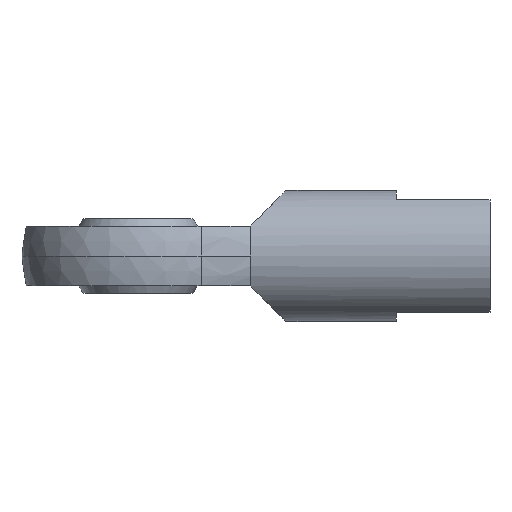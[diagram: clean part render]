
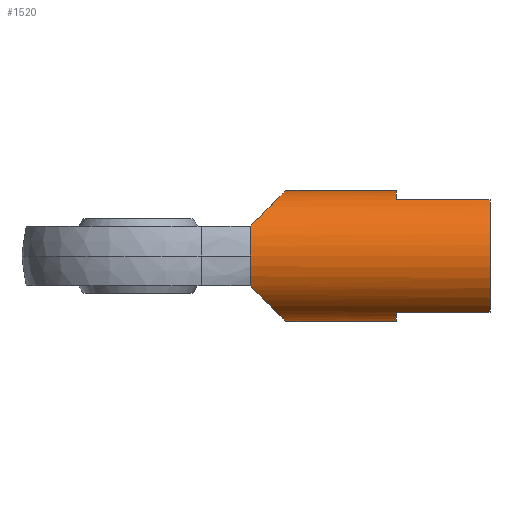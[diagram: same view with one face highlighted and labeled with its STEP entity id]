
A CAD part, front view. The second image highlights one B-rep face of the part: STEP entity #1520.
In plain terms, the highlighted cylindrical face has radius 17.5 mm (diameter 35 mm), a partial arc.
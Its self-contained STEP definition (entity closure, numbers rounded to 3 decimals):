
#75 = AXIS2_PLACEMENT_3D ( 'NONE', #194, #193, #192 ) ;
#76 = CYLINDRICAL_SURFACE ( 'NONE', #75, 17.5 ) ;
#126 = FACE_OUTER_BOUND ( 'NONE', #1521, .T. ) ;
#192 = DIRECTION ( 'NONE',  ( 0., 0., -1. ) ) ;
#193 = DIRECTION ( 'NONE',  ( 1., 0., 0. ) ) ;
#194 = CARTESIAN_POINT ( 'NONE',  ( 30., 0., 0. ) ) ;
#607 = EDGE_CURVE ( 'NONE', #608, #609, #895, .T. ) ;
#608 = VERTEX_POINT ( 'NONE', #891 ) ;
#609 = VERTEX_POINT ( 'NONE', #890 ) ;
#619 = EDGE_CURVE ( 'NONE', #627, #620, #901, .T. ) ;
#620 = VERTEX_POINT ( 'NONE', #862 ) ;
#627 = VERTEX_POINT ( 'NONE', #944 ) ;
#654 = VERTEX_POINT ( 'NONE', #984 ) ;
#659 = VERTEX_POINT ( 'NONE', #997 ) ;
#662 = EDGE_CURVE ( 'NONE', #659, #654, #986, .T. ) ;
#666 = ORIENTED_EDGE ( 'NONE', *, *, #1392, .F. ) ;
#667 = ORIENTED_EDGE ( 'NONE', *, *, #607, .T. ) ;
#670 = EDGE_CURVE ( 'NONE', #675, #627, #1009, .T. ) ;
#671 = EDGE_CURVE ( 'NONE', #675, #608, #977, .T. ) ;
#672 = ORIENTED_EDGE ( 'NONE', *, *, #688, .F. ) ;
#673 = ORIENTED_EDGE ( 'NONE', *, *, #662, .T. ) ;
#674 = ORIENTED_EDGE ( 'NONE', *, *, #676, .F. ) ;
#675 = VERTEX_POINT ( 'NONE', #1014 ) ;
#676 = EDGE_CURVE ( 'NONE', #659, #609, #972, .T. ) ;
#677 = ORIENTED_EDGE ( 'NONE', *, *, #671, .T. ) ;
#678 = VERTEX_POINT ( 'NONE', #1035 ) ;
#679 = ORIENTED_EDGE ( 'NONE', *, *, #717, .F. ) ;
#688 = EDGE_CURVE ( 'NONE', #678, #654, #1142, .T. ) ;
#703 = EDGE_CURVE ( 'NONE', #729, #746, #1120, .T. ) ;
#717 = EDGE_CURVE ( 'NONE', #620, #728, #1125, .T. ) ;
#719 = ORIENTED_EDGE ( 'NONE', *, *, #703, .F. ) ;
#728 = VERTEX_POINT ( 'NONE', #1105 ) ;
#729 = VERTEX_POINT ( 'NONE', #1104 ) ;
#734 = ORIENTED_EDGE ( 'NONE', *, *, #735, .F. ) ;
#735 = EDGE_CURVE ( 'NONE', #728, #729, #1080, .T. ) ;
#746 = VERTEX_POINT ( 'NONE', #1099 ) ;
#862 = CARTESIAN_POINT ( 'NONE',  ( 69., 0., 17.5 ) ) ;
#863 = DIRECTION ( 'NONE',  ( 1., 0., 0. ) ) ;
#864 = VECTOR ( 'NONE', #863, 1000. ) ;
#865 = CARTESIAN_POINT ( 'NONE',  ( 30., 0., 17.5 ) ) ;
#890 = CARTESIAN_POINT ( 'NONE',  ( 30., -15.564, -8. ) ) ;
#891 = CARTESIAN_POINT ( 'NONE',  ( 30., -17.5, 0. ) ) ;
#892 = DIRECTION ( 'NONE',  ( 0., 1., 0. ) ) ;
#893 = DIRECTION ( 'NONE',  ( 1., 0., 0. ) ) ;
#894 = AXIS2_PLACEMENT_3D ( 'NONE', #918, #893, #892 ) ;
#895 = CIRCLE ( 'NONE', #894, 17.5 ) ;
#901 = LINE ( 'NONE', #865, #864 ) ;
#918 = CARTESIAN_POINT ( 'NONE',  ( 30., 0., 0. ) ) ;
#944 = CARTESIAN_POINT ( 'NONE',  ( 39.5, 0., 17.5 ) ) ;
#972 =( BOUNDED_CURVE ( )  B_SPLINE_CURVE ( 3, ( #1034, #1033, #1032, #1031 ),
 .UNSPECIFIED., .F., .T. ) 
 B_SPLINE_CURVE_WITH_KNOTS ( ( 4, 4 ),
 ( 0., 1.096 ),
 .UNSPECIFIED. ) 
 CURVE ( )  GEOMETRIC_REPRESENTATION_ITEM ( )  RATIONAL_B_SPLINE_CURVE ( ( 1., 0.902, 0.902, 1. ) ) 
 REPRESENTATION_ITEM ( '' )  );
#973 = DIRECTION ( 'NONE',  ( 0., 1., 0. ) ) ;
#974 = DIRECTION ( 'NONE',  ( 1., 0., 0. ) ) ;
#975 = CARTESIAN_POINT ( 'NONE',  ( 30., 0., 0. ) ) ;
#976 = AXIS2_PLACEMENT_3D ( 'NONE', #975, #974, #973 ) ;
#977 = CIRCLE ( 'NONE', #976, 17.5 ) ;
#979 = CARTESIAN_POINT ( 'NONE',  ( 39.5, 0., 17.5 ) ) ;
#980 = CARTESIAN_POINT ( 'NONE',  ( 39.5, -6.736, 17.5 ) ) ;
#981 = CARTESIAN_POINT ( 'NONE',  ( 35.991, -12.485, 13.991 ) ) ;
#982 = CARTESIAN_POINT ( 'NONE',  ( 30., -15.564, 8. ) ) ;
#984 = CARTESIAN_POINT ( 'NONE',  ( 69., 0., -17.5 ) ) ;
#986 = LINE ( 'NONE', #993, #992 ) ;
#991 = DIRECTION ( 'NONE',  ( 1., 0., 0. ) ) ;
#992 = VECTOR ( 'NONE', #991, 1000. ) ;
#993 = CARTESIAN_POINT ( 'NONE',  ( 30., 0., -17.5 ) ) ;
#997 = CARTESIAN_POINT ( 'NONE',  ( 39.5, 0., -17.5 ) ) ;
#1009 =( BOUNDED_CURVE ( )  B_SPLINE_CURVE ( 3, ( #982, #981, #980, #979 ),
 .UNSPECIFIED., .F., .T. ) 
 B_SPLINE_CURVE_WITH_KNOTS ( ( 4, 4 ),
 ( 5.187, 6.283 ),
 .UNSPECIFIED. ) 
 CURVE ( )  GEOMETRIC_REPRESENTATION_ITEM ( )  RATIONAL_B_SPLINE_CURVE ( ( 1., 0.902, 0.902, 1. ) ) 
 REPRESENTATION_ITEM ( '' )  );
#1014 = CARTESIAN_POINT ( 'NONE',  ( 30., -15.564, 8. ) ) ;
#1031 = CARTESIAN_POINT ( 'NONE',  ( 30., -15.564, -8. ) ) ;
#1032 = CARTESIAN_POINT ( 'NONE',  ( 35.991, -12.485, -13.991 ) ) ;
#1033 = CARTESIAN_POINT ( 'NONE',  ( 39.5, -6.736, -17.5 ) ) ;
#1034 = CARTESIAN_POINT ( 'NONE',  ( 39.5, 0., -17.5 ) ) ;
#1035 = CARTESIAN_POINT ( 'NONE',  ( 69., -9.014, -15. ) ) ;
#1071 = DIRECTION ( 'NONE',  ( 1., 0., 0. ) ) ;
#1072 = VECTOR ( 'NONE', #1071, 1000. ) ;
#1079 = CARTESIAN_POINT ( 'NONE',  ( 30., -9.014, 15. ) ) ;
#1080 = LINE ( 'NONE', #1079, #1072 ) ;
#1099 = CARTESIAN_POINT ( 'NONE',  ( 94., -9.014, -15. ) ) ;
#1104 = CARTESIAN_POINT ( 'NONE',  ( 94., -9.014, 15. ) ) ;
#1105 = CARTESIAN_POINT ( 'NONE',  ( 69., -9.014, 15. ) ) ;
#1116 = DIRECTION ( 'NONE',  ( 0., 0., -1. ) ) ;
#1117 = DIRECTION ( 'NONE',  ( 1., 0., 0. ) ) ;
#1118 = CARTESIAN_POINT ( 'NONE',  ( 94., 0., 0. ) ) ;
#1119 = AXIS2_PLACEMENT_3D ( 'NONE', #1118, #1117, #1116 ) ;
#1120 = CIRCLE ( 'NONE', #1119, 17.5 ) ;
#1121 = DIRECTION ( 'NONE',  ( 0., 0., 1. ) ) ;
#1122 = DIRECTION ( 'NONE',  ( 1., 0., 0. ) ) ;
#1123 = CARTESIAN_POINT ( 'NONE',  ( 69., 0., 0. ) ) ;
#1124 = AXIS2_PLACEMENT_3D ( 'NONE', #1123, #1122, #1121 ) ;
#1125 = CIRCLE ( 'NONE', #1124, 17.5 ) ;
#1134 = DIRECTION ( 'NONE',  ( 0., 0., 1. ) ) ;
#1135 = DIRECTION ( 'NONE',  ( 1., 0., 0. ) ) ;
#1136 = CARTESIAN_POINT ( 'NONE',  ( 69., 0., 0. ) ) ;
#1137 = AXIS2_PLACEMENT_3D ( 'NONE', #1136, #1135, #1134 ) ;
#1142 = CIRCLE ( 'NONE', #1137, 17.5 ) ;
#1219 = LINE ( 'NONE', #1224, #1240 ) ;
#1224 = CARTESIAN_POINT ( 'NONE',  ( 30., -9.014, -15. ) ) ;
#1239 = DIRECTION ( 'NONE',  ( -1., 0., 0. ) ) ;
#1240 = VECTOR ( 'NONE', #1239, 1000. ) ;
#1392 = EDGE_CURVE ( 'NONE', #746, #678, #1219, .T. ) ;
#1520 = ADVANCED_FACE ( 'NONE', ( #126 ), #76, .T. ) ;
#1521 = EDGE_LOOP ( 'NONE', ( #1522, #1523, #677, #667, #674, #673, #672, #666, #719, #734, #679 ) ) ;
#1522 = ORIENTED_EDGE ( 'NONE', *, *, #619, .F. ) ;
#1523 = ORIENTED_EDGE ( 'NONE', *, *, #670, .F. ) ;
